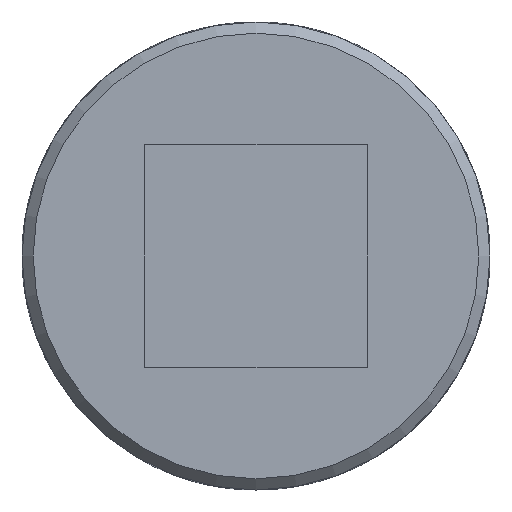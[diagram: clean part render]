
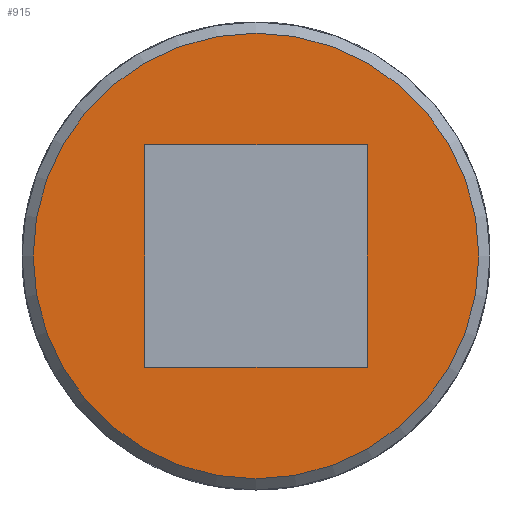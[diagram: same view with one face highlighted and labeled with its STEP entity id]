
A CAD part, front view. The second image highlights one B-rep face of the part: STEP entity #915.
In plain terms, the highlighted planar face has unit normal (0, -1, 0).
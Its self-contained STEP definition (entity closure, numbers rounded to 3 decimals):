
#102=LINE('',#1367,#142);
#106=LINE('',#1390,#146);
#112=LINE('',#1428,#152);
#115=LINE('',#1448,#155);
#142=VECTOR('',#1120,20.);
#146=VECTOR('',#1128,20.);
#152=VECTOR('',#1136,20.);
#155=VECTOR('',#1143,20.);
#182=PLANE('',#995);
#207=FACE_BOUND('',#311,.T.);
#240=FACE_OUTER_BOUND('',#310,.T.);
#310=EDGE_LOOP('',(#729));
#311=EDGE_LOOP('',(#730,#731,#732,#733));
#364=CIRCLE('',#993,20.);
#408=VERTEX_POINT('',#1364);
#409=VERTEX_POINT('',#1366);
#415=VERTEX_POINT('',#1389);
#424=VERTEX_POINT('',#1426);
#431=VERTEX_POINT('',#1493);
#503=EDGE_CURVE('',#409,#408,#102,.T.);
#510=EDGE_CURVE('',#415,#409,#106,.T.);
#520=EDGE_CURVE('',#408,#424,#112,.T.);
#526=EDGE_CURVE('',#424,#415,#115,.T.);
#537=EDGE_CURVE('',#431,#431,#364,.T.);
#729=ORIENTED_EDGE('',*,*,#537,.F.);
#730=ORIENTED_EDGE('',*,*,#503,.T.);
#731=ORIENTED_EDGE('',*,*,#520,.T.);
#732=ORIENTED_EDGE('',*,*,#526,.T.);
#733=ORIENTED_EDGE('',*,*,#510,.T.);
#915=ADVANCED_FACE('',(#240,#207),#182,.F.);
#993=AXIS2_PLACEMENT_3D('',#1494,#1172,#1173);
#995=AXIS2_PLACEMENT_3D('',#1718,#1180,#1181);
#1120=DIRECTION('',(0.,0.,-1.));
#1128=DIRECTION('',(1.,0.,0.));
#1136=DIRECTION('',(-1.,0.,0.));
#1143=DIRECTION('',(0.,0.,1.));
#1172=DIRECTION('center_axis',(0.,1.,0.));
#1173=DIRECTION('ref_axis',(1.,0.,0.));
#1180=DIRECTION('center_axis',(0.,1.,0.));
#1181=DIRECTION('ref_axis',(0.,0.,1.));
#1364=CARTESIAN_POINT('',(10.,-64.,-10.));
#1366=CARTESIAN_POINT('',(10.,-64.,10.));
#1367=CARTESIAN_POINT('',(10.,-64.,5.));
#1389=CARTESIAN_POINT('',(-10.,-64.,10.));
#1390=CARTESIAN_POINT('',(-5.,-64.,10.));
#1426=CARTESIAN_POINT('',(-10.,-64.,-10.));
#1428=CARTESIAN_POINT('',(5.,-64.,-10.));
#1448=CARTESIAN_POINT('',(-10.,-64.,-5.));
#1493=CARTESIAN_POINT('',(-20.,-64.,0.));
#1494=CARTESIAN_POINT('Origin',(0.,-64.,0.));
#1718=CARTESIAN_POINT('Origin',(0.,-64.,0.));
